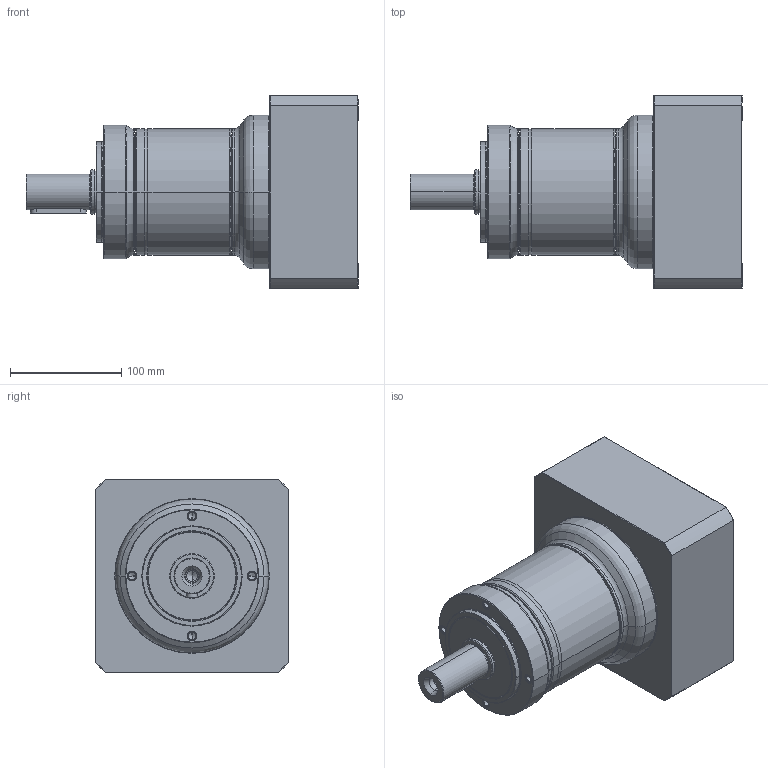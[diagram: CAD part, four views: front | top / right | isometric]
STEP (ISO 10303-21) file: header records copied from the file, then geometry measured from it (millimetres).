
FILE_DESCRIPTION((''),'2;1');
FILE_NAME('PE2-120_2ST_38-P0411900101_ASM','2016-05-03T',('d00435'),(''),'PRO/ENGINEER BY PARAMETRIC TECHNOLOGY CORPORATION, 2008410','PRO/ENGINEER BY PARAMETRIC TECHNOLOGY CORPORATION, 2008410','');
FILE_SCHEMA(('CONFIG_CONTROL_DESIGN'));
Length unit declared in the file: millimetre
Products named in the file (9): P1323410001; P0251400001; P1324400501; P0350401001; P0941405001; P0503900010; P0411900101; P1702600001; PE2-120_2ST_38-P0411900101_ASM
Assembly tree (8 placements, depth 2):
  PE2-120_2ST_38-P0411900101_ASM
    P1323410001
    P0251400001
    P1324400501
    P0350401001
    P0941405001
    P0503900010
    P0411900101
    P1702600001
Bounding box: 298.5 x 174 x 174 mm (x, y, z)
Volume: 3088122.1 mm3; surface area: 378490.9 mm2
Topology: 8 solids, 22 shells, 539 faces, 1201 edges, 708 vertices
Faces by surface type: cylinder 172, cone 148, torus 106, plane 97, bspline 16
Entity records: 19667 total; most frequent: CARTESIAN_POINT 7364, DIRECTION 2841, ORIENTED_EDGE 2274, AXIS2_PLACEMENT_3D 1229, EDGE_CURVE 1165, VERTEX_POINT 708, CIRCLE 679, EDGE_LOOP 621
